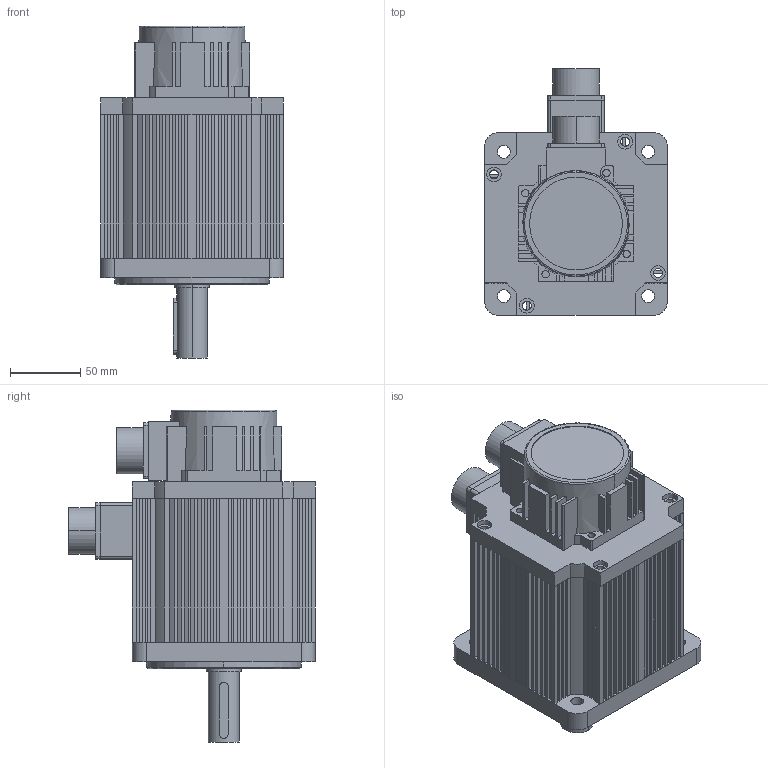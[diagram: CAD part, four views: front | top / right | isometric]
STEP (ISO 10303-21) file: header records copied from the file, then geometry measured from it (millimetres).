
FILE_DESCRIPTION (( 'STEP AP203' ), '1' );
FILE_NAME ('ASMJ-13-1525B-G322-01.STEP', '2024-04-25T00:51:15', ( 'Admin' ), ( '' ), 'SwSTEP 2.0', 'SolidWorks 2018', '' );
FILE_SCHEMA (( 'CONFIG_CONTROL_DESIGN' ));
Length unit declared in the file: millimetre
Products named in the file (1): ASMJ-13-1525B-G322-01
Bounding box: 130 x 175.3 x 236 mm (x, y, z)
Volume: 724234.4 mm3; surface area: 348547.2 mm2
Topology: 10 solids, 10 shells, 876 faces, 2411 edges, 1552 vertices
Faces by surface type: plane 490, cylinder 323, bspline 45, cone 18
Entity records: 29692 total; most frequent: CARTESIAN_POINT 7244, ORIENTED_EDGE 4698, DIRECTION 4599, EDGE_CURVE 2349, VERTEX_POINT 1552, VECTOR 1539, LINE 1539, AXIS2_PLACEMENT_3D 1530
